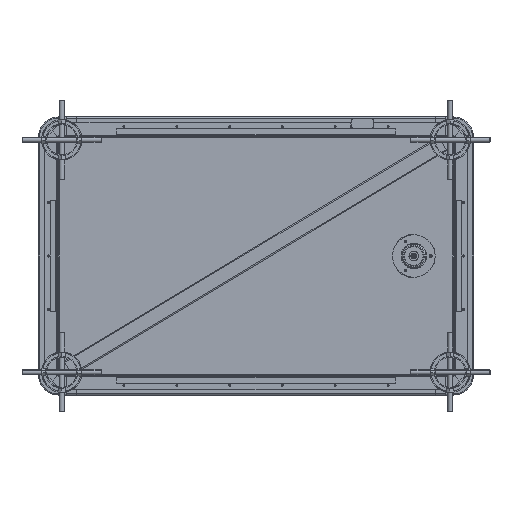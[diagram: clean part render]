
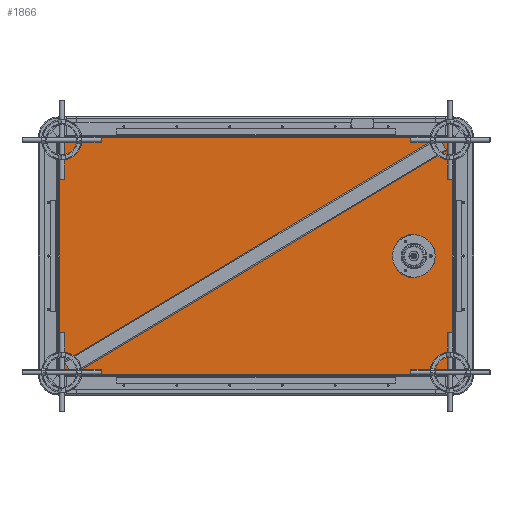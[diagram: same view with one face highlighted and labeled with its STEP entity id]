
A CAD part, front view. The second image highlights one B-rep face of the part: STEP entity #1866.
In plain terms, the highlighted planar face has unit normal (-0.018, -1, 0).
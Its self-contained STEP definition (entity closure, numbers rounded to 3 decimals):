
#641 = DIRECTION ( 'NONE',  ( 0.017, 1., 0. ) ) ;
#803 = DIRECTION ( 'NONE',  ( -1., 0.017, 0. ) ) ;
#893 = CARTESIAN_POINT ( 'NONE',  ( 378.648, -70.328, -36.806 ) ) ;
#1841 = DIRECTION ( 'NONE',  ( -1., 0.017, 0. ) ) ;
#1866 = ADVANCED_FACE ( 'NONE', ( #3287, #22401, #21213, #27781, #48130 ), #38190, .F. ) ;
#2176 = VERTEX_POINT ( 'NONE', #16153 ) ;
#2187 = CARTESIAN_POINT ( 'NONE',  ( 376.198, -70.285, -36.806 ) ) ;
#2735 = CARTESIAN_POINT ( 'NONE',  ( -495.57, -55.069, 298. ) ) ;
#3287 = FACE_BOUND ( 'NONE', #9835, .T. ) ;
#3953 = DIRECTION ( 'NONE',  ( 0.017, 1., 0. ) ) ;
#4326 = AXIS2_PLACEMENT_3D ( 'NONE', #11328, #22336, #38067 ) ;
#4384 = VERTEX_POINT ( 'NONE', #14321 ) ;
#4391 = CARTESIAN_POINT ( 'NONE',  ( 499.5, -72.438, 298. ) ) ;
#4788 = DIRECTION ( 'NONE',  ( 0.017, 1., 0. ) ) ;
#5832 = DIRECTION ( 'NONE',  ( 0.017, 1., 0. ) ) ;
#6061 = CARTESIAN_POINT ( 'NONE',  ( 495.43, -72.367, 298. ) ) ;
#6097 = CARTESIAN_POINT ( 'NONE',  ( 442.388, -71.441, 0. ) ) ;
#6214 = EDGE_CURVE ( 'NONE', #49336, #2176, #31142, .T. ) ;
#7194 = VERTEX_POINT ( 'NONE', #37403 ) ;
#7447 = ORIENTED_EDGE ( 'NONE', *, *, #47288, .T. ) ;
#7532 = AXIS2_PLACEMENT_3D ( 'NONE', #2187, #5832, #1841 ) ;
#7655 = CARTESIAN_POINT ( 'NONE',  ( 495.43, -72.367, 298. ) ) ;
#7657 = ORIENTED_EDGE ( 'NONE', *, *, #16133, .F. ) ;
#7812 = CARTESIAN_POINT ( 'NONE',  ( -495.57, -55.069, 298. ) ) ;
#8174 = DIRECTION ( 'NONE',  ( 0.017, 1., 0. ) ) ;
#8252 = CARTESIAN_POINT ( 'NONE',  ( 499.5, -72.438, 298. ) ) ;
#8472 = EDGE_CURVE ( 'NONE', #33584, #2176, #29946, .T. ) ;
#8626 = DIRECTION ( 'NONE',  ( -1., 0.017, 0. ) ) ;
#9835 = EDGE_LOOP ( 'NONE', ( #48468, #37633 ) ) ;
#10225 = VECTOR ( 'NONE', #41811, 1000. ) ;
#11328 = CARTESIAN_POINT ( 'NONE',  ( 376.198, -70.285, -36.806 ) ) ;
#11336 = ORIENTED_EDGE ( 'NONE', *, *, #39628, .T. ) ;
#11652 = EDGE_LOOP ( 'NONE', ( #23417, #15212 ) ) ;
#11801 = DIRECTION ( 'NONE',  ( -1., 0.017, 0. ) ) ;
#14321 = CARTESIAN_POINT ( 'NONE',  ( 427.69, -71.184, 0. ) ) ;
#14524 = CIRCLE ( 'NONE', #4326, 2.45 ) ;
#14611 = VERTEX_POINT ( 'NONE', #29756 ) ;
#14710 = DIRECTION ( 'NONE',  ( 0.017, 1., 0. ) ) ;
#14728 = CIRCLE ( 'NONE', #35301, 30.25 ) ;
#14835 = EDGE_CURVE ( 'NONE', #22095, #32105, #29032, .T. ) ;
#15205 = EDGE_CURVE ( 'NONE', #37606, #14611, #14524, .T. ) ;
#15212 = ORIENTED_EDGE ( 'NONE', *, *, #15205, .T. ) ;
#15443 = EDGE_CURVE ( 'NONE', #14611, #37606, #39582, .T. ) ;
#15798 = CARTESIAN_POINT ( 'NONE',  ( 439.938, -71.398, 0. ) ) ;
#16133 = EDGE_CURVE ( 'NONE', #17127, #49336, #36522, .T. ) ;
#16153 = CARTESIAN_POINT ( 'NONE',  ( 495.43, -72.367, -298. ) ) ;
#16405 = AXIS2_PLACEMENT_3D ( 'NONE', #19986, #4788, #8626 ) ;
#16553 = DIRECTION ( 'NONE',  ( 1., -0.017, 0. ) ) ;
#16623 = CIRCLE ( 'NONE', #17883, 30.25 ) ;
#17127 = VERTEX_POINT ( 'NONE', #7812 ) ;
#17883 = AXIS2_PLACEMENT_3D ( 'NONE', #37645, #14710, #26604 ) ;
#18136 = CARTESIAN_POINT ( 'NONE',  ( 367.199, -70.128, 0. ) ) ;
#19037 = AXIS2_PLACEMENT_3D ( 'NONE', #4391, #19601, #38676 ) ;
#19164 = DIRECTION ( 'NONE',  ( 0.017, 1., 0. ) ) ;
#19374 = ORIENTED_EDGE ( 'NONE', *, *, #8472, .T. ) ;
#19503 = CARTESIAN_POINT ( 'NONE',  ( 397.445, -70.656, 0. ) ) ;
#19601 = DIRECTION ( 'NONE',  ( 0.017, 1., 0. ) ) ;
#19986 = CARTESIAN_POINT ( 'NONE',  ( 376.198, -70.285, 36.806 ) ) ;
#21213 = FACE_BOUND ( 'NONE', #32845, .T. ) ;
#22095 = VERTEX_POINT ( 'NONE', #32768 ) ;
#22336 = DIRECTION ( 'NONE',  ( 0.017, 1., 0. ) ) ;
#22401 = FACE_BOUND ( 'NONE', #11652, .T. ) ;
#23228 = CARTESIAN_POINT ( 'NONE',  ( 439.938, -71.398, 0. ) ) ;
#23417 = ORIENTED_EDGE ( 'NONE', *, *, #15443, .T. ) ;
#23548 = CIRCLE ( 'NONE', #23597, 2.45 ) ;
#23597 = AXIS2_PLACEMENT_3D ( 'NONE', #38744, #641, #28023 ) ;
#26135 = CIRCLE ( 'NONE', #16405, 2.45 ) ;
#26604 = DIRECTION ( 'NONE',  ( -1., 0.017, 0. ) ) ;
#27781 = FACE_BOUND ( 'NONE', #46979, .T. ) ;
#28023 = DIRECTION ( 'NONE',  ( -1., 0.017, 0. ) ) ;
#29032 = CIRCLE ( 'NONE', #37940, 2.45 ) ;
#29756 = CARTESIAN_POINT ( 'NONE',  ( 373.748, -70.243, -36.806 ) ) ;
#29834 = ORIENTED_EDGE ( 'NONE', *, *, #29986, .T. ) ;
#29946 = LINE ( 'NONE', #43150, #31731 ) ;
#29986 = EDGE_CURVE ( 'NONE', #4384, #47161, #14728, .T. ) ;
#31142 = LINE ( 'NONE', #7655, #37163 ) ;
#31731 = VECTOR ( 'NONE', #16553, 1000. ) ;
#32105 = VERTEX_POINT ( 'NONE', #6097 ) ;
#32331 = VECTOR ( 'NONE', #39029, 1000. ) ;
#32768 = CARTESIAN_POINT ( 'NONE',  ( 437.489, -71.355, 0. ) ) ;
#32845 = EDGE_LOOP ( 'NONE', ( #43214, #7447 ) ) ;
#33012 = VERTEX_POINT ( 'NONE', #43189 ) ;
#33584 = VERTEX_POINT ( 'NONE', #38310 ) ;
#35301 = AXIS2_PLACEMENT_3D ( 'NONE', #19503, #19164, #803 ) ;
#35304 = AXIS2_PLACEMENT_3D ( 'NONE', #15798, #3953, #11801 ) ;
#35698 = ORIENTED_EDGE ( 'NONE', *, *, #6214, .F. ) ;
#36305 = CIRCLE ( 'NONE', #35304, 2.45 ) ;
#36385 = EDGE_CURVE ( 'NONE', #33012, #7194, #26135, .T. ) ;
#36522 = LINE ( 'NONE', #8252, #32331 ) ;
#37163 = VECTOR ( 'NONE', #42081, 1000. ) ;
#37403 = CARTESIAN_POINT ( 'NONE',  ( 373.748, -70.243, 36.806 ) ) ;
#37606 = VERTEX_POINT ( 'NONE', #893 ) ;
#37633 = ORIENTED_EDGE ( 'NONE', *, *, #36385, .T. ) ;
#37645 = CARTESIAN_POINT ( 'NONE',  ( 397.445, -70.656, 0. ) ) ;
#37940 = AXIS2_PLACEMENT_3D ( 'NONE', #23228, #8174, #42454 ) ;
#38067 = DIRECTION ( 'NONE',  ( -1., 0.017, 0. ) ) ;
#38190 = PLANE ( 'NONE',  #19037 ) ;
#38310 = CARTESIAN_POINT ( 'NONE',  ( -495.57, -55.069, -298. ) ) ;
#38675 = EDGE_CURVE ( 'NONE', #17127, #33584, #40704, .T. ) ;
#38676 = DIRECTION ( 'NONE',  ( -1., 0.017, 0. ) ) ;
#38744 = CARTESIAN_POINT ( 'NONE',  ( 376.198, -70.285, 36.806 ) ) ;
#39029 = DIRECTION ( 'NONE',  ( 1., -0.017, 0. ) ) ;
#39582 = CIRCLE ( 'NONE', #7532, 2.45 ) ;
#39628 = EDGE_CURVE ( 'NONE', #47161, #4384, #16623, .T. ) ;
#40704 = LINE ( 'NONE', #2735, #10225 ) ;
#40909 = ORIENTED_EDGE ( 'NONE', *, *, #38675, .T. ) ;
#41811 = DIRECTION ( 'NONE',  ( 0., 0., -1. ) ) ;
#41856 = EDGE_LOOP ( 'NONE', ( #19374, #35698, #7657, #40909 ) ) ;
#42081 = DIRECTION ( 'NONE',  ( 0., 0., -1. ) ) ;
#42454 = DIRECTION ( 'NONE',  ( -1., 0.017, 0. ) ) ;
#43150 = CARTESIAN_POINT ( 'NONE',  ( 499.5, -72.438, -298. ) ) ;
#43189 = CARTESIAN_POINT ( 'NONE',  ( 378.648, -70.328, 36.806 ) ) ;
#43214 = ORIENTED_EDGE ( 'NONE', *, *, #14835, .T. ) ;
#44271 = EDGE_CURVE ( 'NONE', #7194, #33012, #23548, .T. ) ;
#46979 = EDGE_LOOP ( 'NONE', ( #11336, #29834 ) ) ;
#47161 = VERTEX_POINT ( 'NONE', #18136 ) ;
#47288 = EDGE_CURVE ( 'NONE', #32105, #22095, #36305, .T. ) ;
#48130 = FACE_OUTER_BOUND ( 'NONE', #41856, .T. ) ;
#48468 = ORIENTED_EDGE ( 'NONE', *, *, #44271, .T. ) ;
#49336 = VERTEX_POINT ( 'NONE', #6061 ) ;
